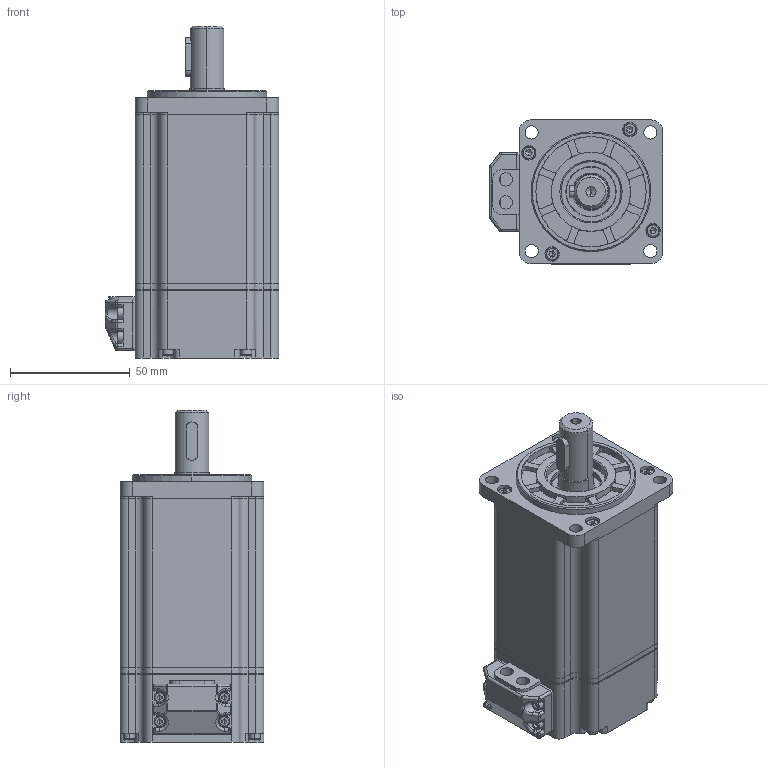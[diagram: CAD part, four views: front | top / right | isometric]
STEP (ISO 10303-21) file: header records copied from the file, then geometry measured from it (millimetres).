
FILE_DESCRIPTION (( 'STEP AP203' ), '1' );
FILE_NAME ('淕儂蚾饜.STEP', '2020-03-17T06:39:53', ( 'admin' ), ( '' ), 'SwSTEP 2.0', 'SolidWorks 2016', '' );
FILE_SCHEMA (( 'CONFIG_CONTROL_DESIGN' ));
Products named in the file (1): 淕儂蚾饜
Bounding box: 72.5 x 60 x 138.5 mm (x, y, z)
Volume: 139828.8 mm3; surface area: 91460.9 mm2
Topology: 22 solids, 22 shells, 1310 faces, 3568 edges, 2238 vertices
Faces by surface type: cylinder 552, plane 465, cone 125, torus 98, sphere 58, bspline 12
Entity records: 43052 total; most frequent: CARTESIAN_POINT 9933, DIRECTION 7265, ORIENTED_EDGE 6788, EDGE_CURVE 3394, AXIS2_PLACEMENT_3D 2862, VERTEX_POINT 2174, CIRCLE 1563, VECTOR 1541
